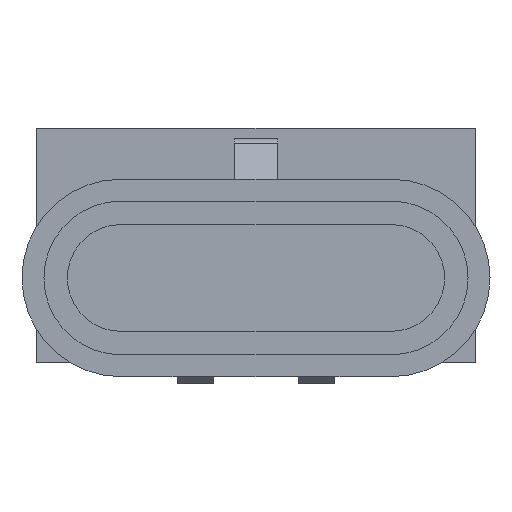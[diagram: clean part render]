
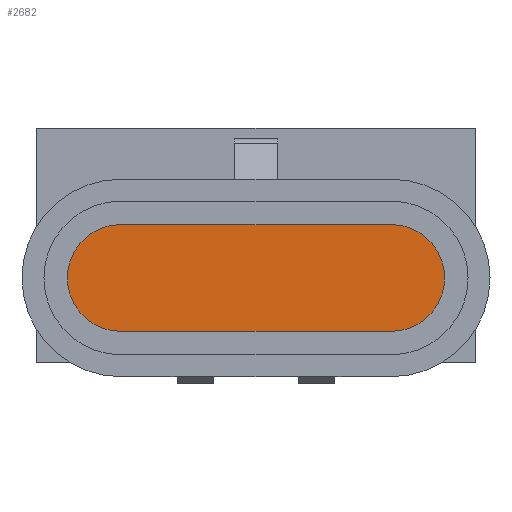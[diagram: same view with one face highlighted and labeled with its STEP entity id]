
A CAD part, front view. The second image highlights one B-rep face of the part: STEP entity #2682.
In plain terms, the highlighted planar face has unit normal (0, -1, 0) as drawn and (0, 0, -1) by its records, which use the part's own axes.
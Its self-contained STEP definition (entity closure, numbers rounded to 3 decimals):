
#159=LINE('',#4222,#385);
#163=LINE('',#4234,#389);
#385=VECTOR('',#3408,18.5);
#389=VECTOR('',#3420,18.5);
#538=PLANE('',#2901);
#693=FACE_OUTER_BOUND('',#865,.T.);
#865=EDGE_LOOP('',(#2030,#2031,#2032,#2033));
#1039=CIRCLE('',#2896,3.65);
#1041=CIRCLE('',#2900,3.65);
#1233=VERTEX_POINT('',#4219);
#1234=VERTEX_POINT('',#4221);
#1236=VERTEX_POINT('',#4227);
#1238=VERTEX_POINT('',#4233);
#1525=EDGE_CURVE('',#1234,#1233,#159,.T.);
#1528=EDGE_CURVE('',#1236,#1234,#1039,.T.);
#1531=EDGE_CURVE('',#1238,#1236,#163,.T.);
#1534=EDGE_CURVE('',#1233,#1238,#1041,.T.);
#2030=ORIENTED_EDGE('',*,*,#1528,.T.);
#2031=ORIENTED_EDGE('',*,*,#1525,.T.);
#2032=ORIENTED_EDGE('',*,*,#1534,.T.);
#2033=ORIENTED_EDGE('',*,*,#1531,.T.);
#2682=ADVANCED_FACE('',(#693),#538,.F.);
#2896=AXIS2_PLACEMENT_3D('',#4228,#3414,#3415);
#2900=AXIS2_PLACEMENT_3D('',#4238,#3426,#3427);
#2901=AXIS2_PLACEMENT_3D('',#4239,#3428,#3429);
#3408=DIRECTION('',(1.,0.,0.));
#3414=DIRECTION('center_axis',(0.,0.,-1.));
#3415=DIRECTION('ref_axis',(1.,0.,0.));
#3420=DIRECTION('',(-1.,0.,0.));
#3426=DIRECTION('center_axis',(0.,0.,-1.));
#3427=DIRECTION('ref_axis',(1.,0.,0.));
#3428=DIRECTION('center_axis',(0.,0.,1.));
#3429=DIRECTION('ref_axis',(1.,0.,0.));
#4219=CARTESIAN_POINT('',(9.25,-2.1,-60.2));
#4221=CARTESIAN_POINT('',(-9.25,-2.1,-60.2));
#4222=CARTESIAN_POINT('',(-9.25,-2.1,-60.2));
#4227=CARTESIAN_POINT('',(-9.25,-9.4,-60.2));
#4228=CARTESIAN_POINT('Origin',(-9.25,-5.75,-60.2));
#4233=CARTESIAN_POINT('',(9.25,-9.4,-60.2));
#4234=CARTESIAN_POINT('',(9.25,-9.4,-60.2));
#4238=CARTESIAN_POINT('Origin',(9.25,-5.75,-60.2));
#4239=CARTESIAN_POINT('Origin',(-9.25,-5.75,-60.2));
